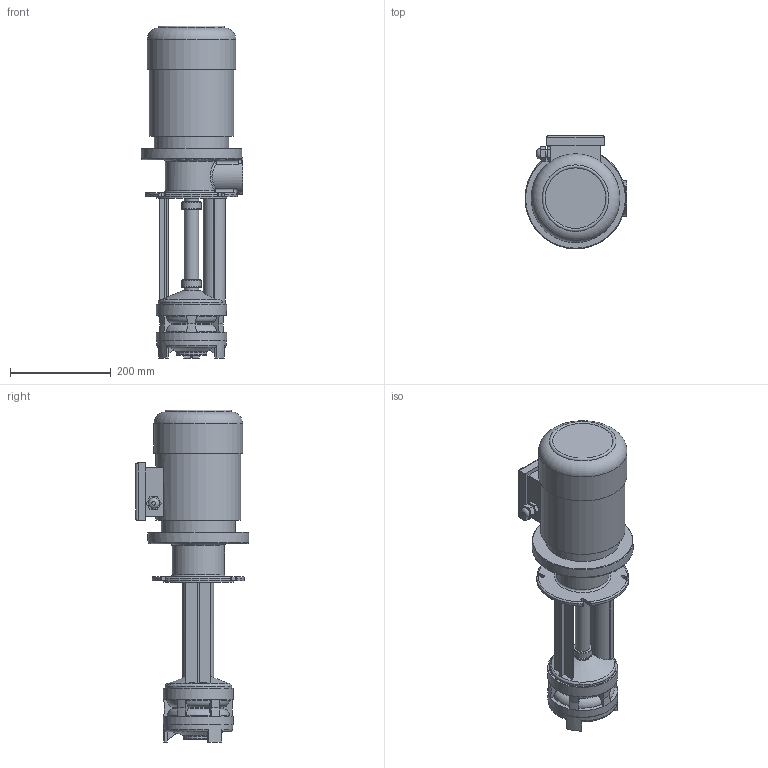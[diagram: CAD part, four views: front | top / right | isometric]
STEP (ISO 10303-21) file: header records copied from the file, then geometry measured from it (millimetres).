
FILE_DESCRIPTION(/* description */ ('Unknown'),/* implementation_level */ '2;1');
FILE_NAME(/* name */ 'gp2-320',/* time_stamp */ '2025-06-04T09:13:03+03:00',/* author */ ('Unknown'),/* organization */ ('Unknown'),/* preprocessor_version */ 'ST-DEVELOPER v16.7',/* originating_system */ 'DEX',/* authorisation */ $);
FILE_SCHEMA (('AUTOMOTIVE_DESIGN {1 0 10303 214 3 1 1}'));
Length unit declared in the file: millimetre
Products named in the file (1): gp2-320
Bounding box: 202 x 225 x 658.33 mm (x, y, z)
Volume: 9683298.9 mm3; surface area: 472771.7 mm2
Topology: 1 solids, 1 shells, 340 faces, 861 edges, 554 vertices
Faces by surface type: plane 122, bspline 84, cylinder 72, cone 33, torus 29
Full cylindrical faces by diameter (mm): 17 x1, 21.5 x1, 29 x3, 33 x2, 35 x2, 39 x2, 40.5 x2, 45 x1, 47 x1, 60 x1, 137 x1, 139 x2, 140 x1, 168.001 x1, 176 x1, 200 x1
Entity records: 12837 total; most frequent: CARTESIAN_POINT 5318, ORIENTED_EDGE 1608, DIRECTION 1359, EDGE_CURVE 804, VERTEX_POINT 546, AXIS2_PLACEMENT_3D 505, EDGE_LOOP 424, FACE_BOUND 424
